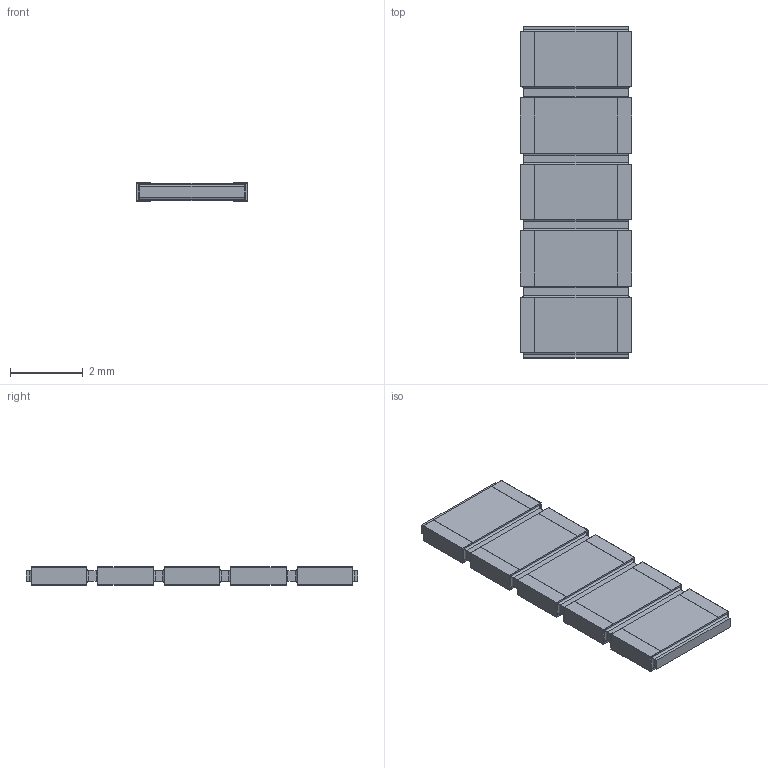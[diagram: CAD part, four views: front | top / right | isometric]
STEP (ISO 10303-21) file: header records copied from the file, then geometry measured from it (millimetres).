
FILE_DESCRIPTION(/* description */ (''),/* implementation_level */ '2;1');
FILE_NAME(/* name */ 'S:\DOCUMENT\AUTOCAD\3D_Modèles\10_3D-pour-VISHAY-COM\PRA\PRA182\PRA182-I2_à_I8\10_IGES\PRA182I5_B-or-N-or-G.stp',/* time_stamp */ '2017-12-18T15:18:37+01:00',/* author */ ('dparmentier'),/* organization */ ('unknown'),/* preprocessor_version */ 'ST-DEVELOPER v17',/* originating_system */ 'Autodesk Inventor 2018',/* authorisation */ '');
FILE_SCHEMA (('AUTOMOTIVE_DESIGN { 1 0 10303 214 3 1 1 }'));
Length unit declared in the file: millimetre
Products named in the file (1): PRA182I5_B-or-N-or-G
Bounding box: 3.06 x 9.12 x 0.5 mm (x, y, z)
Volume: 12.8 mm3; surface area: 109.8 mm2
Topology: 11 solids, 11 shells, 196 faces, 452 edges, 288 vertices
Faces by surface type: plane 156, cylinder 40
Entity records: 5459 total; most frequent: CARTESIAN_POINT 937, ORIENTED_EDGE 904, DIRECTION 886, EDGE_CURVE 452, LINE 412, VECTOR 412, VERTEX_POINT 288, AXIS2_PLACEMENT_3D 237
